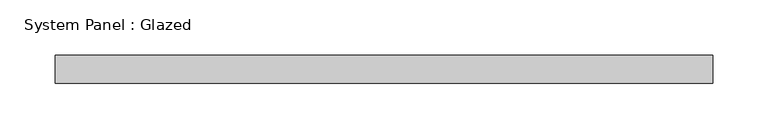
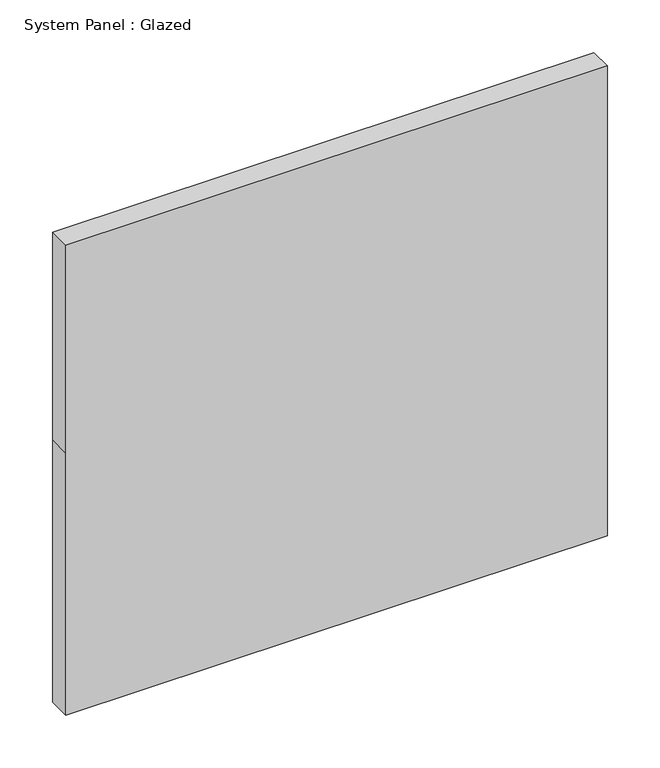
"""IFC4 building model written with IfcOpenShell, lengths in millimetres: plate geometry, System Panel : Glazed."""

from ifc_helpers import new_model, si_unit, frame, origin, place, context, project, spatial, polyline, outline, extrude, source, transform, mapped, element, save


def system_panel_glazed_65392b54(model_context):
    return source(origin(), model_context, "Body", "SweptSolid", [
        extrude(outline(polyline([(0.0, -297.7), (0.0, 297.7), (304.8, 297.7), (546.1, 297.7), (546.1, -297.7), (304.8, -297.7), (0.0, -297.7)])), frame((0.0, -44.45, 0.0), z_axis=(0.0, 1.0, 0.0), x_axis=(0.0, 0.0, 1.0)), (0.0, 0.0, 1.0), 25.4),
    ])


if __name__ == "__main__":
    model = new_model("IFC4")
    model_context = context("Model", 3, world=origin())
    ifc_project = project(units=[si_unit("LENGTHUNIT", "METRE", prefix="MILLI")], contexts=[model_context])
    site = spatial("IfcSite", under=ifc_project)
    building = spatial("IfcBuilding", under=site)
    placement = place(None, origin())
    system_panel_glazed_shape = system_panel_glazed_65392b54(model_context)
    element("IfcPlate", 1, ObjectType="System Panel : Glazed", at=placement, inside=building, context=model_context, shape_type="MappedRepresentation", body=[
        mapped(system_panel_glazed_shape, transform((0.0, 0.0, 0.0), x_axis=(1.0, 0.0, 0.0), y_axis=(0.0, 1.0, 0.0), z_axis=(0.0, 0.0, 1.0))),
    ])
    save(model, "model.ifc")
